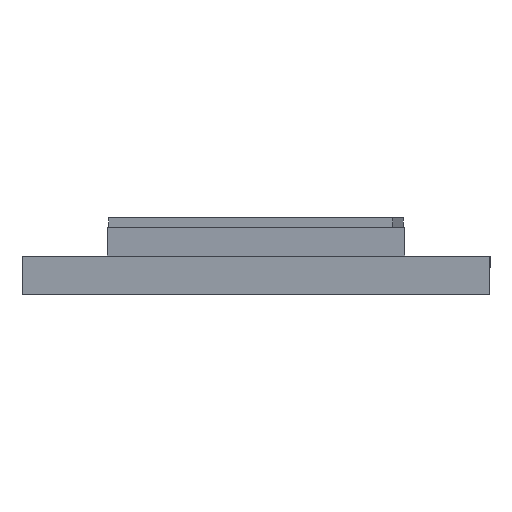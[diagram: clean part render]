
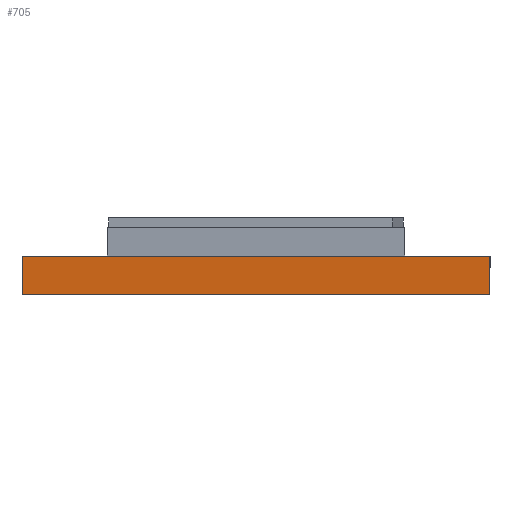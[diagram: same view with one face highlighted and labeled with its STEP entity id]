
A CAD part, left-side view. The second image highlights one B-rep face of the part: STEP entity #705.
In plain terms, the highlighted planar face has unit normal (-0.99, 0.139, 0).
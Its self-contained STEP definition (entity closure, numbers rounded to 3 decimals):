
#48 = DIRECTION ( 'NONE',  ( 0.139, 0.99, 0. ) ) ;
#102 = CARTESIAN_POINT ( 'NONE',  ( 3.518, 24.5, 4. ) ) ;
#246 = DIRECTION ( 'NONE',  ( 0., 0., 1. ) ) ;
#288 = AXIS2_PLACEMENT_3D ( 'NONE', #3539, #3259, #246 ) ;
#456 = ORIENTED_EDGE ( 'NONE', *, *, #3131, .T. ) ;
#461 = ORIENTED_EDGE ( 'NONE', *, *, #3480, .T. ) ;
#563 = VERTEX_POINT ( 'NONE', #1851 ) ;
#705 = ADVANCED_FACE ( 'NONE', ( #2089 ), #1352, .T. ) ;
#723 = LINE ( 'NONE', #2172, #3570 ) ;
#778 = VERTEX_POINT ( 'NONE', #2231 ) ;
#861 = CARTESIAN_POINT ( 'NONE',  ( -3.439, -25., 0. ) ) ;
#1150 = CARTESIAN_POINT ( 'NONE',  ( 3.518, 24.5, 4. ) ) ;
#1214 = CARTESIAN_POINT ( 'NONE',  ( -3.368, -24.5, 4. ) ) ;
#1221 = EDGE_CURVE ( 'NONE', #1485, #3015, #2197, .T. ) ;
#1341 = ORIENTED_EDGE ( 'NONE', *, *, #2559, .F. ) ;
#1352 = PLANE ( 'NONE',  #288 ) ;
#1353 = EDGE_LOOP ( 'NONE', ( #461, #1763, #1341, #456 ) ) ;
#1358 = DIRECTION ( 'NONE',  ( 0.139, 0.99, 0. ) ) ;
#1364 = VECTOR ( 'NONE', #2854, 1000. ) ;
#1414 = LINE ( 'NONE', #861, #1791 ) ;
#1431 = DIRECTION ( 'NONE',  ( 0., 0., -1. ) ) ;
#1485 = VERTEX_POINT ( 'NONE', #102 ) ;
#1763 = ORIENTED_EDGE ( 'NONE', *, *, #1221, .T. ) ;
#1791 = VECTOR ( 'NONE', #48, 1000. ) ;
#1851 = CARTESIAN_POINT ( 'NONE',  ( -3.368, -24.5, 0. ) ) ;
#1880 = CARTESIAN_POINT ( 'NONE',  ( 3.518, 24.5, 0. ) ) ;
#2089 = FACE_OUTER_BOUND ( 'NONE', #1353, .T. ) ;
#2109 = VECTOR ( 'NONE', #1431, 1000. ) ;
#2172 = CARTESIAN_POINT ( 'NONE',  ( -3.439, -25., 4. ) ) ;
#2197 = LINE ( 'NONE', #1150, #2109 ) ;
#2231 = CARTESIAN_POINT ( 'NONE',  ( -3.368, -24.5, 4. ) ) ;
#2559 = EDGE_CURVE ( 'NONE', #563, #3015, #1414, .T. ) ;
#2635 = LINE ( 'NONE', #1214, #1364 ) ;
#2854 = DIRECTION ( 'NONE',  ( 0., 0., 1. ) ) ;
#3015 = VERTEX_POINT ( 'NONE', #1880 ) ;
#3131 = EDGE_CURVE ( 'NONE', #563, #778, #2635, .T. ) ;
#3259 = DIRECTION ( 'NONE',  ( -0.99, 0.139, 0. ) ) ;
#3480 = EDGE_CURVE ( 'NONE', #778, #1485, #723, .T. ) ;
#3539 = CARTESIAN_POINT ( 'NONE',  ( -3.439, -25., 4. ) ) ;
#3570 = VECTOR ( 'NONE', #1358, 1000. ) ;
